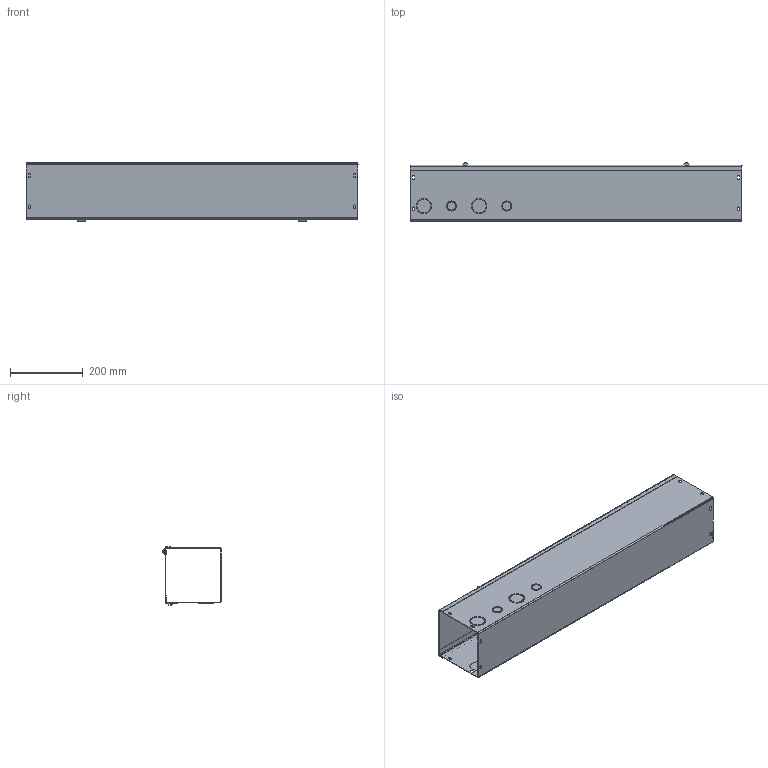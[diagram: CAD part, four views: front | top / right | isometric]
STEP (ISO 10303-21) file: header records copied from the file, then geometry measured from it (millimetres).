
FILE_DESCRIPTION((''),'1');
FILE_NAME('21','2001-04-18T',('jlue'),(''),'PRO/ENGINEER BY PARAMETRIC TECHNOLOGY CORPORATION, 9846','PRO/ENGINEER BY PARAMETRIC TECHNOLOGY CORPORATION, 9846','');
FILE_SCHEMA(('CONFIG_CONTROL_DESIGN'));
Length unit declared in the file: inch
Products named in the file (1): 21
Bounding box: 914.4 x 159.78 x 161.43 mm (x, y, z)
Surface area: 1170381.2 mm2 (no closed solid volume)
Topology: 0 solids, 0 shells, 243 faces, 1253 edges, 1274 vertices
Faces by surface type: plane 131, cylinder 96, cone 8, bspline 8
Entity records: 6627 total; most frequent: DIRECTION 1327, COMPOSITE_CURVE_SEGMENT 1232, CARTESIAN_POINT 1096, TRIMMED_CURVE 637, AXIS2_PLACEMENT_3D 455, VECTOR 417, LINE 417, CURVE_BOUNDED_SURFACE 243
